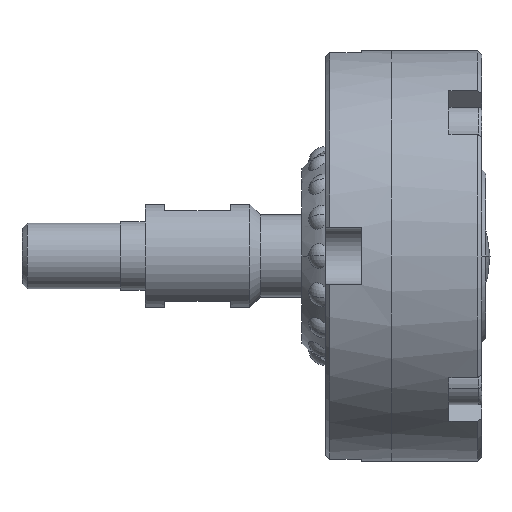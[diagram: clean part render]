
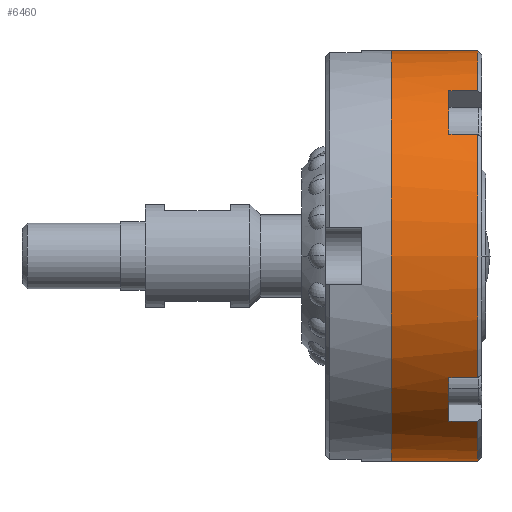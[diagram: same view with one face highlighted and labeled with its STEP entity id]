
A CAD part, front view. The second image highlights one B-rep face of the part: STEP entity #6460.
In plain terms, the highlighted cylindrical face has radius 50 mm (diameter 100 mm), a partial arc.
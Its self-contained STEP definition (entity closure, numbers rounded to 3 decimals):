
#165 = ORIENTED_EDGE ( 'NONE', *, *, #9771, .F. ) ;
#166 = ORIENTED_EDGE ( 'NONE', *, *, #9765, .T. ) ;
#167 = ORIENTED_EDGE ( 'NONE', *, *, #9762, .T. ) ;
#168 = ORIENTED_EDGE ( 'NONE', *, *, #9760, .F. ) ;
#224 = ORIENTED_EDGE ( 'NONE', *, *, #9808, .F. ) ;
#225 = ORIENTED_EDGE ( 'NONE', *, *, #9807, .T. ) ;
#226 = ORIENTED_EDGE ( 'NONE', *, *, #9730, .F. ) ;
#2187 = EDGE_LOOP ( 'NONE', ( #226, #225, #224, #168, #167, #166, #165, #7164, #7154, #7153, #7152, #7151 ) ) ;
#2450 = CIRCLE ( 'NONE', #8462, 50. ) ;
#2468 = CIRCLE ( 'NONE', #8469, 50. ) ;
#2470 = LINE ( 'NONE', #8666, #2471 ) ;
#2471 = VECTOR ( 'NONE', #8667, 1000. ) ;
#2474 = CIRCLE ( 'NONE', #8470, 50. ) ;
#2482 = LINE ( 'NONE', #8690, #2483 ) ;
#2483 = VECTOR ( 'NONE', #8691, 1000. ) ;
#2490 = LINE ( 'NONE', #8709, #2492 ) ;
#2491 = CIRCLE ( 'NONE', #8476, 50. ) ;
#2492 = VECTOR ( 'NONE', #8710, 1000. ) ;
#2528 = LINE ( 'NONE', #8791, #2530 ) ;
#2529 = CIRCLE ( 'NONE', #8488, 50. ) ;
#2530 = VECTOR ( 'NONE', #8792, 1000. ) ;
#2531 = CIRCLE ( 'NONE', #8489, 50. ) ;
#5108 = CARTESIAN_POINT ( 'NONE',  ( 0., 0., 0. ) ) ;
#5109 = DIRECTION ( 'NONE',  ( -1., 0., 0. ) ) ;
#5110 = DIRECTION ( 'NONE',  ( 0., 0., 1. ) ) ;
#6460 = ADVANCED_FACE ( 'NONE', ( #11235 ), #11236, .T. ) ;
#6583 = VERTEX_POINT ( 'NONE', #7380 ) ;
#6586 = VERTEX_POINT ( 'NONE', #7383 ) ;
#6589 = VERTEX_POINT ( 'NONE', #7386 ) ;
#6594 = VERTEX_POINT ( 'NONE', #7391 ) ;
#6607 = VERTEX_POINT ( 'NONE', #7404 ) ;
#6613 = VERTEX_POINT ( 'NONE', #7410 ) ;
#6653 = VERTEX_POINT ( 'NONE', #7450 ) ;
#6659 = VERTEX_POINT ( 'NONE', #7456 ) ;
#7151 = ORIENTED_EDGE ( 'NONE', *, *, #9809, .F. ) ;
#7152 = ORIENTED_EDGE ( 'NONE', *, *, #9732, .T. ) ;
#7153 = ORIENTED_EDGE ( 'NONE', *, *, #9747, .T. ) ;
#7154 = ORIENTED_EDGE ( 'NONE', *, *, #9778, .T. ) ;
#7164 = ORIENTED_EDGE ( 'NONE', *, *, #9777, .F. ) ;
#7380 = CARTESIAN_POINT ( 'NONE',  ( 14., -40.259, -29.652 ) ) ;
#7383 = CARTESIAN_POINT ( 'NONE',  ( 14., -29.652, -40.259 ) ) ;
#7386 = CARTESIAN_POINT ( 'NONE',  ( 21., -40.259, -29.652 ) ) ;
#7391 = CARTESIAN_POINT ( 'NONE',  ( 21., -40.259, 29.652 ) ) ;
#7404 = CARTESIAN_POINT ( 'NONE',  ( 14., -29.652, 40.259 ) ) ;
#7410 = CARTESIAN_POINT ( 'NONE',  ( 14., -40.259, 29.652 ) ) ;
#7450 = CARTESIAN_POINT ( 'NONE',  ( 21., -29.652, -40.259 ) ) ;
#7456 = CARTESIAN_POINT ( 'NONE',  ( 21., -29.652, 40.259 ) ) ;
#8199 = AXIS2_PLACEMENT_3D ( 'NONE', #5108, #5109, #5110 ) ;
#8462 = AXIS2_PLACEMENT_3D ( 'NONE', #11805, #11806, #11807 ) ;
#8469 = AXIS2_PLACEMENT_3D ( 'NONE', #8661, #8662, #8663 ) ;
#8470 = AXIS2_PLACEMENT_3D ( 'NONE', #8674, #8675, #8676 ) ;
#8476 = AXIS2_PLACEMENT_3D ( 'NONE', #8706, #8707, #8708 ) ;
#8488 = AXIS2_PLACEMENT_3D ( 'NONE', #8788, #8789, #8790 ) ;
#8489 = AXIS2_PLACEMENT_3D ( 'NONE', #8793, #8794, #8795 ) ;
#8661 = CARTESIAN_POINT ( 'NONE',  ( 14., 0., 0. ) ) ;
#8662 = DIRECTION ( 'NONE',  ( 1., 0., 0. ) ) ;
#8663 = DIRECTION ( 'NONE',  ( 0., 1., 0. ) ) ;
#8666 = CARTESIAN_POINT ( 'NONE',  ( 14., -40.259, -29.652 ) ) ;
#8667 = DIRECTION ( 'NONE',  ( 1., 0., 0. ) ) ;
#8674 = CARTESIAN_POINT ( 'NONE',  ( 21., 0., 0. ) ) ;
#8675 = DIRECTION ( 'NONE',  ( -1., 0., 0. ) ) ;
#8676 = DIRECTION ( 'NONE',  ( 0., 0., 1. ) ) ;
#8690 = CARTESIAN_POINT ( 'NONE',  ( 14., -40.259, 29.652 ) ) ;
#8691 = DIRECTION ( 'NONE',  ( 1., 0., 0. ) ) ;
#8706 = CARTESIAN_POINT ( 'NONE',  ( 14., 0., 0. ) ) ;
#8707 = DIRECTION ( 'NONE',  ( 1., 0., 0. ) ) ;
#8708 = DIRECTION ( 'NONE',  ( 0., 0., -1. ) ) ;
#8709 = CARTESIAN_POINT ( 'NONE',  ( 14., -29.652, 40.259 ) ) ;
#8710 = DIRECTION ( 'NONE',  ( 1., 0., 0. ) ) ;
#8788 = CARTESIAN_POINT ( 'NONE',  ( 21., 0., 0. ) ) ;
#8789 = DIRECTION ( 'NONE',  ( -1., 0., 0. ) ) ;
#8790 = DIRECTION ( 'NONE',  ( 0., 0., 1. ) ) ;
#8791 = CARTESIAN_POINT ( 'NONE',  ( 14., -29.652, -40.259 ) ) ;
#8792 = DIRECTION ( 'NONE',  ( 1., 0., 0. ) ) ;
#8793 = CARTESIAN_POINT ( 'NONE',  ( 0., 0., 0. ) ) ;
#8794 = DIRECTION ( 'NONE',  ( -1., 0., 0. ) ) ;
#8795 = DIRECTION ( 'NONE',  ( 0., 0., 1. ) ) ;
#9730 = EDGE_CURVE ( 'NONE', #10094, #10025, #12006, .T. ) ;
#9732 = EDGE_CURVE ( 'NONE', #10134, #9959, #12009, .T. ) ;
#9747 = EDGE_CURVE ( 'NONE', #6659, #10134, #2450, .T. ) ;
#9760 = EDGE_CURVE ( 'NONE', #6583, #6586, #2468, .T. ) ;
#9762 = EDGE_CURVE ( 'NONE', #6583, #6589, #2470, .T. ) ;
#9765 = EDGE_CURVE ( 'NONE', #6589, #6594, #2474, .T. ) ;
#9771 = EDGE_CURVE ( 'NONE', #6613, #6594, #2482, .T. ) ;
#9777 = EDGE_CURVE ( 'NONE', #6607, #6613, #2491, .T. ) ;
#9778 = EDGE_CURVE ( 'NONE', #6607, #6659, #2490, .T. ) ;
#9807 = EDGE_CURVE ( 'NONE', #10094, #6653, #2529, .T. ) ;
#9808 = EDGE_CURVE ( 'NONE', #6586, #6653, #2528, .T. ) ;
#9809 = EDGE_CURVE ( 'NONE', #10025, #9959, #2531, .T. ) ;
#9959 = VERTEX_POINT ( 'NONE', #12166 ) ;
#10025 = VERTEX_POINT ( 'NONE', #12232 ) ;
#10094 = VERTEX_POINT ( 'NONE', #12301 ) ;
#10134 = VERTEX_POINT ( 'NONE', #12341 ) ;
#11235 = FACE_OUTER_BOUND ( 'NONE', #2187, .T. ) ;
#11236 = CYLINDRICAL_SURFACE ( 'NONE', #8199, 50. ) ;
#11763 = CARTESIAN_POINT ( 'NONE',  ( 0., 0., -50. ) ) ;
#11764 = DIRECTION ( 'NONE',  ( -1., 0., 0. ) ) ;
#11768 = CARTESIAN_POINT ( 'NONE',  ( 0., 0., 50. ) ) ;
#11769 = DIRECTION ( 'NONE',  ( -1., 0., 0. ) ) ;
#11805 = CARTESIAN_POINT ( 'NONE',  ( 21., 0., 0. ) ) ;
#11806 = DIRECTION ( 'NONE',  ( -1., 0., 0. ) ) ;
#11807 = DIRECTION ( 'NONE',  ( 0., 0., 1. ) ) ;
#12006 = LINE ( 'NONE', #11763, #12008 ) ;
#12008 = VECTOR ( 'NONE', #11764, 1000. ) ;
#12009 = LINE ( 'NONE', #11768, #12011 ) ;
#12011 = VECTOR ( 'NONE', #11769, 1000. ) ;
#12166 = CARTESIAN_POINT ( 'NONE',  ( 0., 0., 50. ) ) ;
#12232 = CARTESIAN_POINT ( 'NONE',  ( 0., 0., -50. ) ) ;
#12301 = CARTESIAN_POINT ( 'NONE',  ( 21., 0., -50. ) ) ;
#12341 = CARTESIAN_POINT ( 'NONE',  ( 21., 0., 50. ) ) ;
